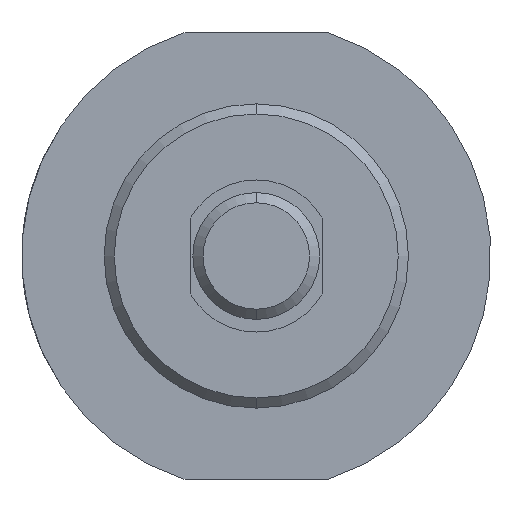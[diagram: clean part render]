
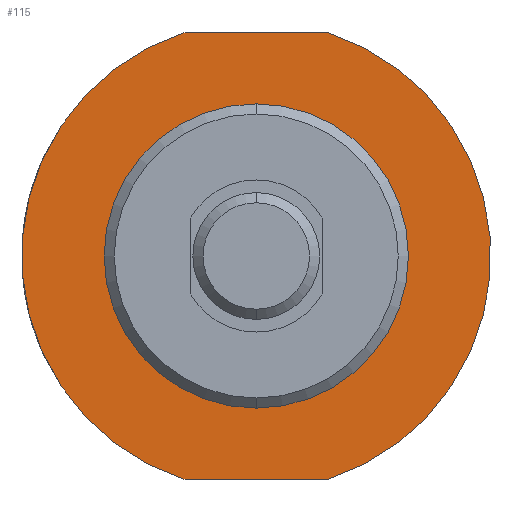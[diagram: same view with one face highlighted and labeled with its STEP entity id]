
A CAD part, left-side view. The second image highlights one B-rep face of the part: STEP entity #115.
In plain terms, the highlighted planar face has unit normal (-1, 0, 0).
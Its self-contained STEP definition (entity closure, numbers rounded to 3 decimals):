
#33 = DIRECTION ( 'NONE',  ( 0., 0., -1. ) ) ;
#41 = DIRECTION ( 'NONE',  ( 0., -1., 0. ) ) ;
#96 = CARTESIAN_POINT ( 'NONE',  ( 28., 0., 0. ) ) ;
#101 = VERTEX_POINT ( 'NONE', #908 ) ;
#115 = ADVANCED_FACE ( 'NONE', ( #1017, #913 ), #541, .F. ) ;
#164 = EDGE_CURVE ( 'NONE', #543, #101, #1453, .T. ) ;
#186 = VERTEX_POINT ( 'NONE', #1053 ) ;
#218 = CARTESIAN_POINT ( 'NONE',  ( 28., 2.85, 8.8 ) ) ;
#220 = VERTEX_POINT ( 'NONE', #1397 ) ;
#237 = CIRCLE ( 'NONE', #1583, 6. ) ;
#244 = DIRECTION ( 'NONE',  ( -1., 0., 0. ) ) ;
#245 = EDGE_CURVE ( 'NONE', #1476, #1575, #1431, .T. ) ;
#272 = DIRECTION ( 'NONE',  ( 0., 0., 1. ) ) ;
#305 = DIRECTION ( 'NONE',  ( 0., 1., 0. ) ) ;
#360 = CARTESIAN_POINT ( 'NONE',  ( 28., 0., 0. ) ) ;
#397 = EDGE_CURVE ( 'NONE', #1476, #101, #1459, .T. ) ;
#400 = ORIENTED_EDGE ( 'NONE', *, *, #795, .T. ) ;
#425 = DIRECTION ( 'NONE',  ( 0., 0., 1. ) ) ;
#438 = DIRECTION ( 'NONE',  ( 0., 0., 1. ) ) ;
#471 = AXIS2_PLACEMENT_3D ( 'NONE', #96, #1126, #425 ) ;
#541 = PLANE ( 'NONE',  #1241 ) ;
#543 = VERTEX_POINT ( 'NONE', #218 ) ;
#559 = VECTOR ( 'NONE', #305, 1000. ) ;
#667 = CARTESIAN_POINT ( 'NONE',  ( 28., 0., 0. ) ) ;
#693 = CARTESIAN_POINT ( 'NONE',  ( 28., 2.85, -8.8 ) ) ;
#730 = DIRECTION ( 'NONE',  ( -1., 0., 0. ) ) ;
#759 = DIRECTION ( 'NONE',  ( 1., 0., 0. ) ) ;
#768 = CARTESIAN_POINT ( 'NONE',  ( 28., 2.85, 8.8 ) ) ;
#781 = CIRCLE ( 'NONE', #471, 9.25 ) ;
#787 = CARTESIAN_POINT ( 'NONE',  ( 28., 2.85, -8.8 ) ) ;
#795 = EDGE_CURVE ( 'NONE', #543, #1575, #781, .T. ) ;
#804 = DIRECTION ( 'NONE',  ( -1., 0., 0. ) ) ;
#819 = CARTESIAN_POINT ( 'NONE',  ( 28., 0., 0. ) ) ;
#824 = ORIENTED_EDGE ( 'NONE', *, *, #397, .T. ) ;
#841 = ORIENTED_EDGE ( 'NONE', *, *, #1543, .F. ) ;
#845 = CIRCLE ( 'NONE', #1358, 6. ) ;
#850 = CARTESIAN_POINT ( 'NONE',  ( 28., -2.85, -8.8 ) ) ;
#908 = CARTESIAN_POINT ( 'NONE',  ( 28., -2.85, 8.8 ) ) ;
#913 = FACE_OUTER_BOUND ( 'NONE', #1036, .T. ) ;
#949 = VECTOR ( 'NONE', #41, 1000. ) ;
#1017 = FACE_BOUND ( 'NONE', #1374, .T. ) ;
#1036 = EDGE_LOOP ( 'NONE', ( #824, #1049, #400, #1456 ) ) ;
#1049 = ORIENTED_EDGE ( 'NONE', *, *, #164, .F. ) ;
#1053 = CARTESIAN_POINT ( 'NONE',  ( 28., 0., 6. ) ) ;
#1126 = DIRECTION ( 'NONE',  ( -1., 0., 0. ) ) ;
#1188 = AXIS2_PLACEMENT_3D ( 'NONE', #360, #730, #1472 ) ;
#1203 = EDGE_CURVE ( 'NONE', #186, #220, #845, .T. ) ;
#1241 = AXIS2_PLACEMENT_3D ( 'NONE', #1443, #759, #33 ) ;
#1358 = AXIS2_PLACEMENT_3D ( 'NONE', #819, #244, #272 ) ;
#1374 = EDGE_LOOP ( 'NONE', ( #1527, #841 ) ) ;
#1397 = CARTESIAN_POINT ( 'NONE',  ( 28., 0., -6. ) ) ;
#1431 = LINE ( 'NONE', #693, #559 ) ;
#1443 = CARTESIAN_POINT ( 'NONE',  ( 28., 6., 0. ) ) ;
#1453 = LINE ( 'NONE', #768, #949 ) ;
#1456 = ORIENTED_EDGE ( 'NONE', *, *, #245, .F. ) ;
#1459 = CIRCLE ( 'NONE', #1188, 9.25 ) ;
#1472 = DIRECTION ( 'NONE',  ( 0., 0., 1. ) ) ;
#1476 = VERTEX_POINT ( 'NONE', #850 ) ;
#1527 = ORIENTED_EDGE ( 'NONE', *, *, #1203, .F. ) ;
#1543 = EDGE_CURVE ( 'NONE', #220, #186, #237, .T. ) ;
#1575 = VERTEX_POINT ( 'NONE', #787 ) ;
#1583 = AXIS2_PLACEMENT_3D ( 'NONE', #667, #804, #438 ) ;
